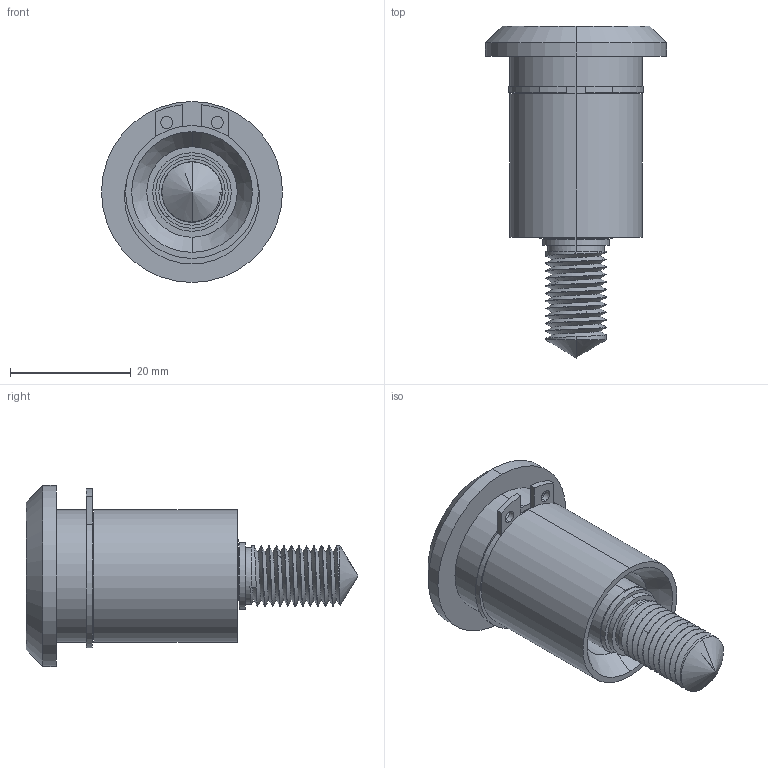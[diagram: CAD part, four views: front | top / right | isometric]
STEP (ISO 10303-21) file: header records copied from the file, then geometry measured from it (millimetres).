
FILE_DESCRIPTION (( 'STEP AP214' ), '1' );
FILE_NAME ('CUYUE.MS707.STEP', '2026-06-18T08:15:05', ( '' ), ( '' ), 'SwSTEP 2.0', 'SolidWorks 2020', '' );
FILE_SCHEMA (( 'AUTOMOTIVE_DESIGN' ));
Length unit declared in the file: millimetre
Products named in the file (5): 20-GB-T-894-1-1986; 7-GB-T-896-1986; 8SJ-MS704-2-0040; 8SJ-MS704-2-0010; CUYUE.MS707
Assembly tree (4 placements, depth 2):
  CUYUE.MS707
    8SJ-MS704-2-0010
    8SJ-MS704-2-0040
    7-GB-T-896-1986
    20-GB-T-894-1-1986
Bounding box: 30 x 55 x 30 mm (x, y, z)
Volume: 12558.7 mm3; surface area: 9316.2 mm2
Topology: 5 solids, 5 shells, 144 faces, 404 edges, 276 vertices
Faces by surface type: cylinder 83, plane 41, cone 12, bspline 8
Entity records: 7755 total; most frequent: CARTESIAN_POINT 3666, ORIENTED_EDGE 800, DIRECTION 711, EDGE_CURVE 400, AXIS2_PLACEMENT_3D 280, VERTEX_POINT 276, EDGE_LOOP 160, LINE 151
